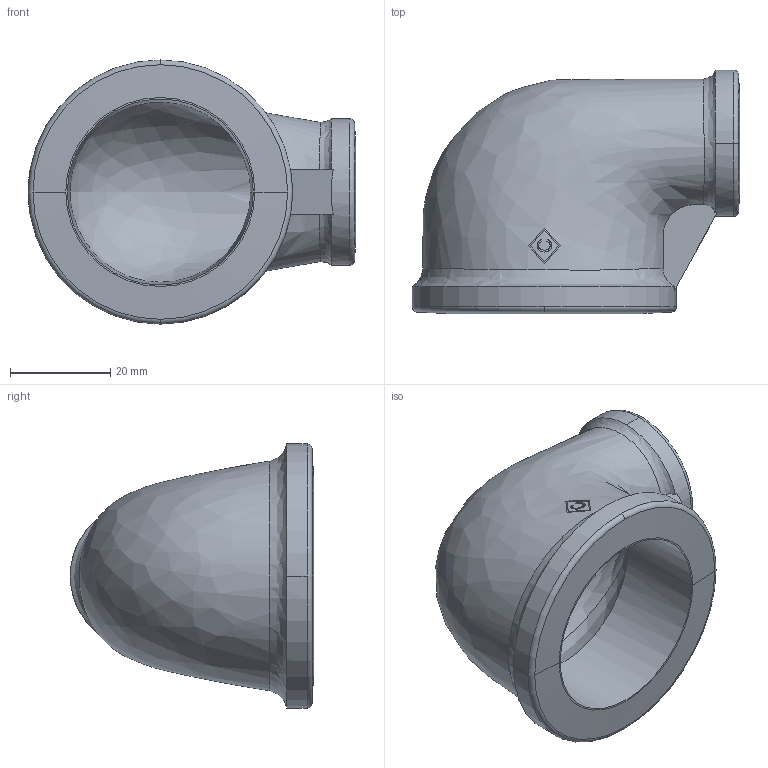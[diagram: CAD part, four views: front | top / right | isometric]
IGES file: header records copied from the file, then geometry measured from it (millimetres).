
Global section: file name: No Iges File Name specified; native system: AutoDesk Inventor R12.0; preprocessor: AutoDesk Inventor Iges Exporter R12.0; date: 20090915.112048; units: millimetre
Bounding box: 65.35 x 48.6 x 52.7 mm (x, y, z)
Volume: 30434.3 mm3; surface area: 15897.4 mm2
Topology: 1 solids, 1 shells, 48 faces, 162 edges, 119 vertices
Faces by surface type: bspline 17, plane 15, revolution 4, cone 4, torus 4, cylinder 4
